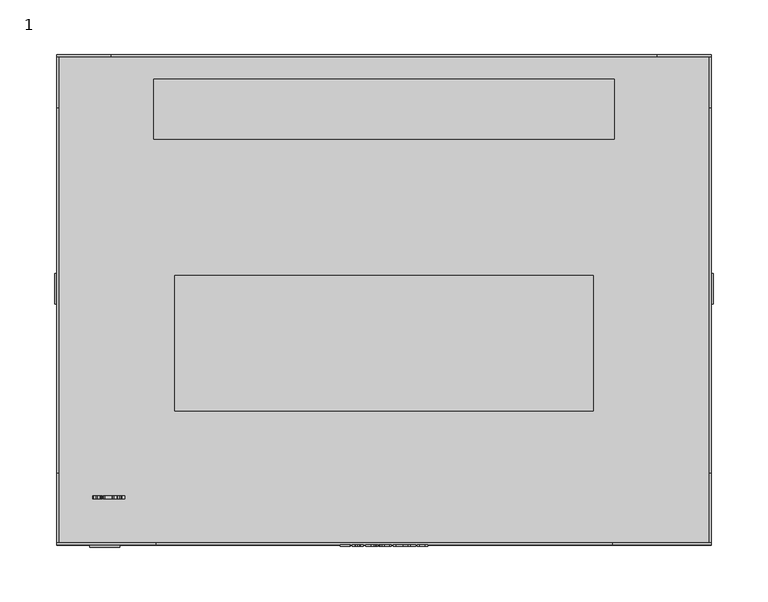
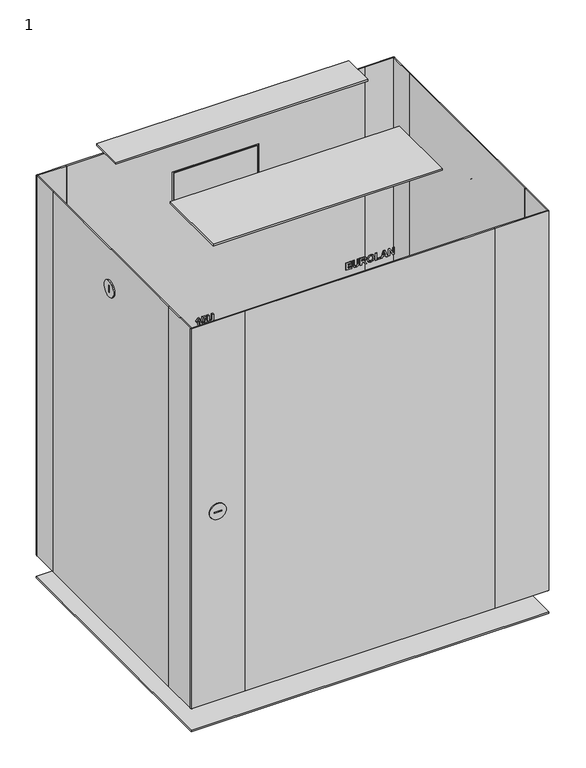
"""IFC4 building model written with IfcOpenShell, lengths in millimetres: proxy geometry, 1 : 15U 450мм стеклянная дверь."""

from ifc_helpers import new_model, si_unit, point, frame, frame_2d, origin, origin_with_axes, place, context, project, spatial, polyline, circle_curve, trimmed, segment, composite_curve, outline, extrude, source, transform, mapped, element, save


def proxy_1_5992bfdd(model_context):
    return source(origin(), model_context, "Body", "SweptSolid", [
        extrude(outline(polyline([(728.0, -40.3245382), (728.0, -30.9964522), (730.1376864, -30.9964522), (730.1376864, -37.9925167), (733.2470483, -37.9925167), (733.2470483, -31.5794576), (735.3847347, -31.5794576), (735.3847347, -37.9925167), (738.1054264, -37.9925167), (738.1054264, -31.1907874), (740.2431128, -31.1907874), (740.2431128, -40.3245382), (728.0, -40.3245382)])), frame((0.0, -226.0, 0.0), z_axis=(0.0, 1.0, 0.0), x_axis=(0.0, 0.0, 1.0)), (0.0, 0.0, 1.0), 1.0),
        extrude(outline(polyline([(740.2431128, -29.053101), (733.7207402, -29.053101), (730.6174512, -28.8071456), (729.2601418, -28.1026808), (728.2095176, -26.6482039), (727.8056649, -23.9487675), (728.1761162, -21.5575346), (729.173602, -20.0954664), (730.7085458, -19.3454543), (733.8209443, -19.1420097), (740.2431128, -19.1420097), (740.2431128, -21.4740312), (733.4960402, -21.4740312), (731.4236383, -21.5924541), (730.3714958, -22.2923642), (729.9433512, -24.0216432), (730.3973059, -25.7979877), (731.5982363, -26.6208755), (733.6387551, -26.7210795), (740.2431128, -26.7210795), (740.2431128, -29.053101)])), frame((0.0, -226.0, 0.0), z_axis=(0.0, 1.0, 0.0), x_axis=(0.0, 0.0, 1.0)), (0.0, 0.0, 1.0), 1.0),
        extrude(outline(polyline([(728.0, -16.8099882), (728.0, -14.4779667), (733.0527132, -13.9435451), (732.9251808, -12.6120459), (732.4560437, -11.8164865), (730.7966039, -10.4242575), (728.0, -8.6509495), (728.0, -5.9272213), (730.3745323, -7.424209), (732.3512849, -8.7238252), (733.3715443, -9.9475291), (734.5071902, -7.6625732), (736.7936644, -6.8988969), (738.7339791, -7.4272455), (739.9121358, -8.8361752), (740.2431128, -11.6601074), (740.2431128, -16.8099882), (728.0, -16.8099882)]), holes=[polyline([(735.1903996, -14.4779667), (738.1054264, -14.4779667), (738.1054264, -12.4495939), (738.0659521, -10.5548264), (737.6150339, -9.5770778), (736.6782779, -9.2309184), (735.817434, -9.4935744), (735.3315962, -10.2223312), (735.1903996, -12.5558709), (735.1903996, -14.4779667)])]), frame((0.0, -226.0, 0.0), z_axis=(0.0, 1.0, 0.0), x_axis=(0.0, 0.0, 1.0)), (0.0, 0.0, 1.0), 1.0),
        extrude(outline(polyline([(734.0456442, -4.9555457), (729.4681411, -3.3735363), (727.8056649, 0.8896905), (729.4757323, 5.1225524), (734.106374, 6.7045618), (738.7628257, 5.1104065), (740.4374479, 0.8593256), (739.9546466, -1.7338337), (738.8539203, -3.2869964), (737.1792981, -4.4059416), (734.0456442, -4.9555457)]), holes=[polyline([(734.1306659, -2.6235242), (737.2612832, -1.6579215), (738.2997616, 0.886654), (737.2734292, 3.4190836), (734.1640672, 4.3725403), (730.9985302, 3.3932735), (729.9433512, 0.886654), (731.0061214, -1.6321114), (734.1306659, -2.6235242)])]), frame((0.0, -226.0, 0.0), z_axis=(0.0, 1.0, 0.0), x_axis=(0.0, 0.0, 1.0)), (0.0, 0.0, 1.0), 1.0),
        extrude(outline(polyline([(728.0, 8.647913), (728.0, 17.1986585), (730.1376864, 17.1986585), (730.1376864, 10.9799345), (740.2431128, 10.9799345), (740.2431128, 8.647913), (728.0, 8.647913)])), frame((0.0, -226.0, 0.0), z_axis=(0.0, 1.0, 0.0), x_axis=(0.0, 0.0, 1.0)), (0.0, 0.0, 1.0), 1.0),
        extrude(outline(polyline([(728.0, 29.2474361), (740.2431128, 24.7352175), (740.2431128, 22.2513717), (728.0, 17.7816638), (728.0, 20.2655096), (730.7206917, 21.2128934), (730.7206917, 25.837462), (728.0, 26.7969917), (728.0, 29.2474361)]), holes=[polyline([(732.8583781, 25.0904864), (732.8583781, 21.959869), (737.3280859, 23.51455), (732.8583781, 25.0904864)])]), frame((0.0, -226.0, 0.0), z_axis=(0.0, 1.0, 0.0), x_axis=(0.0, 0.0, 1.0)), (0.0, 0.0, 1.0), 1.0),
        extrude(outline(polyline([(728.0, 30.4134469), (728.0, 32.7454684), (736.1195644, 32.7454684), (728.0, 37.8042546), (728.0, 40.3245382), (740.2431128, 40.3245382), (740.2431128, 37.9925167), (732.002089, 37.9925167), (740.2431128, 32.8578184), (740.2431128, 30.4134469), (728.0, 30.4134469)])), frame((0.0, -226.0, 0.0), z_axis=(0.0, 1.0, 0.0), x_axis=(0.0, 0.0, 1.0)), (0.0, 0.0, 1.0), 1.0),
        extrude(outline(composite_curve([segment(trimmed(circle_curve(frame_2d((9.997621, 643.4611412)), 14.0), [point((-4.002379, 643.4611412))], [point((23.997621, 643.4611412))], False, "CARTESIAN"), True, "CONTINUOUS"), segment(trimmed(circle_curve(frame_2d((9.997621, 643.4611412)), 14.0), [point((23.997621, 643.4611412))], [point((-4.002379, 643.4611412))], False, "CARTESIAN"), True, "CONTINUOUS")], self_intersect=False), holes=[polyline([(11.0, 649.5), (9.0, 649.5), (9.0, 637.5), (11.0, 637.5), (11.0, 649.5)])]), frame((-302.0, 0.0, 0.0), z_axis=(1.0, 0.0, 0.0), x_axis=(0.0, 1.0, 0.0)), (0.0, 0.0, 1.0), 2.0),
        extrude(outline(composite_curve([segment(trimmed(circle_curve(frame_2d((9.997621, 643.4611412)), 14.0), [point((-4.002379, 643.4611412))], [point((23.997621, 643.4611412))], False, "CARTESIAN"), True, "CONTINUOUS"), segment(trimmed(circle_curve(frame_2d((9.997621, 643.4611412)), 14.0), [point((23.997621, 643.4611412))], [point((-4.002379, 643.4611412))], False, "CARTESIAN"), True, "CONTINUOUS")], self_intersect=False), holes=[polyline([(11.0, 649.5), (9.0, 649.5), (9.0, 637.5), (11.0, 637.5), (11.0, 649.5)])]), frame((300.0, 0.0, 0.0), z_axis=(1.0, 0.0, 0.0), x_axis=(0.0, 1.0, 0.0)), (0.0, 0.0, 1.0), 2.0),
        extrude(outline(composite_curve([segment(trimmed(circle_curve(frame_2d((376.0, -256.0)), 13.7647373), [point((376.0, -242.2352627))], [point((376.0, -269.7647373))], False, "CARTESIAN"), True, "CONTINUOUS"), segment(trimmed(circle_curve(frame_2d((376.0, -256.0)), 13.7647373), [point((376.0, -269.7647373))], [point((376.0, -242.2352627))], False, "CARTESIAN"), True, "CONTINUOUS")], self_intersect=False), holes=[polyline([(377.0, -250.0), (375.0, -250.0), (375.0, -262.0), (377.0, -262.0), (377.0, -250.0)])]), frame((0.0, -227.0, 0.0), z_axis=(0.0, 1.0, 0.0), x_axis=(0.0, 0.0, 1.0)), (0.0, 0.0, 1.0), 2.0),
        extrude(outline(polyline([(300.0, 225.0), (300.0, -225.0), (-300.0, -225.0), (-300.0, 225.0), (300.0, 225.0)])), origin_with_axes(), (0.0, 0.0, 1.0), 2.0),
        extrude(outline(polyline([(211.0, 202.5), (211.0, 147.5), (-211.0, 147.5), (-211.0, 202.5), (211.0, 202.5)])), frame((0.0, 0.0, 748.9795778), z_axis=(0.0, 0.0, 1.0), x_axis=(1.0, 0.0, 0.0)), (0.0, 0.0, 1.0), 3.0204222),
        extrude(outline(polyline([(192.0, 22.0), (192.0, -102.0), (-192.0, -102.0), (-192.0, 22.0), (192.0, 22.0)])), frame((0.0, 0.0, 748.9795778), z_axis=(0.0, 0.0, 1.0), x_axis=(1.0, 0.0, 0.0)), (0.0, 0.0, 1.0), 3.0204222),
        extrude(outline(polyline([(-69.5, 225.0), (69.5, 225.0), (69.5, 223.0), (-69.5, 223.0), (-69.5, 225.0)])), frame((0.0, 0.0, 589.0), z_axis=(0.0, 0.0, 1.0), x_axis=(1.0, 0.0, 0.0)), (0.0, 0.0, 1.0), 49.0),
        extrude(outline(polyline([(714.0, -250.0), (40.0, -250.0), (40.0, 250.0), (714.0, 250.0), (714.0, -250.0)]), holes=[polyline([(641.0, -72.5), (641.0, 72.5), (586.0, 72.5), (586.0, -72.5), (641.0, -72.5)])]), frame((0.0, 223.0, 0.0), z_axis=(0.0, 1.0, 0.0), x_axis=(0.0, 0.0, 1.0)), (0.0, 0.0, 1.0), 2.0),
        extrude(outline(polyline([(-300.0, 225.0), (-250.0, 225.0), (-250.0, 223.0), (-300.0, 223.0), (-300.0, 225.0)])), frame((0.0, 0.0, 40.0), z_axis=(0.0, 0.0, 1.0), x_axis=(1.0, 0.0, 0.0)), (0.0, 0.0, 1.0), 674.0),
        extrude(outline(polyline([(250.0, 225.0), (300.0, 225.0), (300.0, 223.0), (250.0, 223.0), (250.0, 225.0)])), frame((0.0, 0.0, 40.0), z_axis=(0.0, 0.0, 1.0), x_axis=(1.0, 0.0, 0.0)), (0.0, 0.0, 1.0), 674.0),
        extrude(outline(polyline([(-209.0, -223.0), (209.0, -223.0), (209.0, -225.0), (-209.0, -225.0), (-209.0, -223.0)])), frame((0.0, 0.0, 40.0), z_axis=(0.0, 0.0, 1.0), x_axis=(1.0, 0.0, 0.0)), (0.0, 0.0, 1.0), 674.0),
        extrude(outline(polyline([(209.0, -223.0), (300.0, -223.0), (300.0, -225.0), (209.0, -225.0), (209.0, -223.0)])), frame((0.0, 0.0, 40.0), z_axis=(0.0, 0.0, 1.0), x_axis=(1.0, 0.0, 0.0)), (0.0, 0.0, 1.0), 674.0),
        extrude(outline(polyline([(-300.0, -223.0), (-209.0, -223.0), (-209.0, -225.0), (-300.0, -225.0), (-300.0, -223.0)])), frame((0.0, 0.0, 40.0), z_axis=(0.0, 0.0, 1.0), x_axis=(1.0, 0.0, 0.0)), (0.0, 0.0, 1.0), 674.0),
        extrude(outline(polyline([(-298.0, 175.8155315), (-298.0, -158.7095641), (-300.0, -158.7095641), (-300.0, 175.8155315), (-298.0, 175.8155315)])), frame((0.0, 0.0, 40.0), z_axis=(0.0, 0.0, 1.0), x_axis=(1.0, 0.0, 0.0)), (0.0, 0.0, 1.0), 674.0),
        extrude(outline(polyline([(-298.0, -158.7095641), (-298.0, -225.0), (-300.0, -225.0), (-300.0, -158.7095641), (-298.0, -158.7095641)])), frame((0.0, 0.0, 40.0), z_axis=(0.0, 0.0, 1.0), x_axis=(1.0, 0.0, 0.0)), (0.0, 0.0, 1.0), 674.0),
        extrude(outline(polyline([(-298.0, 225.0), (-298.0, 175.8155315), (-300.0, 175.8155315), (-300.0, 225.0), (-298.0, 225.0)])), frame((0.0, 0.0, 40.0), z_axis=(0.0, 0.0, 1.0), x_axis=(1.0, 0.0, 0.0)), (0.0, 0.0, 1.0), 674.0),
        extrude(outline(polyline([(300.0, 175.8155315), (300.0, -158.7095641), (298.0, -158.7095641), (298.0, 175.8155315), (300.0, 175.8155315)])), frame((0.0, 0.0, 40.0), z_axis=(0.0, 0.0, 1.0), x_axis=(1.0, 0.0, 0.0)), (0.0, 0.0, 1.0), 674.0),
        extrude(outline(polyline([(300.0, 225.0), (300.0, 175.8155315), (298.0, 175.8155315), (298.0, 225.0), (300.0, 225.0)])), frame((0.0, 0.0, 40.0), z_axis=(0.0, 0.0, 1.0), x_axis=(1.0, 0.0, 0.0)), (0.0, 0.0, 1.0), 674.0),
        extrude(outline(polyline([(300.0, -158.7095641), (300.0, -225.0), (298.0, -225.0), (298.0, -158.7095641), (300.0, -158.7095641)])), frame((0.0, 0.0, 40.0), z_axis=(0.0, 0.0, 1.0), x_axis=(1.0, 0.0, 0.0)), (0.0, 0.0, 1.0), 674.0),
        extrude(outline(polyline([(680.748317, -260.6030776), (692.9914298, -260.6030776), (692.9914298, -262.4614073), (691.0253049, -263.9037383), (689.8820678, -265.850126), (687.5500463, -265.850126), (689.4994705, -262.9350991), (680.748317, -262.9350991), (680.748317, -260.6030776)])), frame((0.0, -182.6777479, 0.0), z_axis=(0.0, 1.0, 0.0), x_axis=(0.0, 0.0, 1.0)), (0.0, 0.0, 1.0), 3.0),
        extrude(outline(polyline([(684.1947289, -257.1050454), (681.5408399, -255.8676772), (680.5539818, -253.194051), (682.1268817, -249.984485), (684.7473694, -249.1373053), (687.6122943, -250.1545282), (688.716057, -252.6323011), (688.2393287, -254.1353618), (690.4650731, -253.6647064), (690.4650731, -249.7203107), (692.7970946, -249.7203107), (692.7970946, -255.5503644), (685.9073072, -256.9107103), (685.606695, -254.8884104), (686.5783707, -253.1819051), (686.1077153, -251.9445369), (684.6957492, -251.4693268), (683.1911702, -251.9809748), (682.6916682, -253.2304889), (683.1623236, -254.3722077), (684.4406843, -254.967359), (684.1947289, -257.1050454)])), frame((0.0, -182.6777479, 0.0), z_axis=(0.0, 1.0, 0.0), x_axis=(0.0, 0.0, 1.0)), (0.0, 0.0, 1.0), 3.0),
        extrude(outline(polyline([(692.9914298, -247.3882892), (686.4690572, -247.3882892), (683.3657682, -247.1423338), (682.0084588, -246.437869), (680.9578345, -244.9833921), (680.5539818, -242.2839557), (680.9244332, -239.8927228), (681.9219189, -238.4306546), (683.4568627, -237.6806425), (686.5692612, -237.4771979), (692.9914298, -237.4771979), (692.9914298, -239.8092194), (686.2443572, -239.8092194), (684.1719553, -239.9276424), (683.1198128, -240.6275524), (682.6916682, -242.3568314), (683.1456229, -244.1331759), (684.3465532, -244.9560637), (686.387072, -245.0562677), (692.9914298, -245.0562677), (692.9914298, -247.3882892)])), frame((0.0, -182.6777479, 0.0), z_axis=(0.0, 1.0, 0.0), x_axis=(0.0, 0.0, 1.0)), (0.0, 0.0, 1.0), 3.0),
        extrude(outline(polyline([(636.0351924, -260.6030776), (648.2783052, -260.6030776), (648.2783052, -262.4614073), (646.3121803, -263.9037383), (645.1689432, -265.850126), (642.8369217, -265.850126), (644.7863459, -262.9350991), (636.0351924, -262.9350991), (636.0351924, -260.6030776)])), frame((0.0, -182.6777479, 0.0), z_axis=(0.0, 1.0, 0.0), x_axis=(0.0, 0.0, 1.0)), (0.0, 0.0, 1.0), 3.0),
        extrude(outline(polyline([(636.0351924, -252.8296727), (636.0351924, -250.4976512), (638.561549, -250.4976512), (638.561549, -248.9429702), (640.5049002, -248.9429702), (640.5049002, -250.4976512), (648.08397, -250.4976512), (648.08397, -252.5199511), (640.4957907, -257.4937157), (638.561549, -257.4937157), (638.561549, -252.8296727), (636.0351924, -252.8296727)]), holes=[polyline([(640.5049002, -252.8296727), (640.5049002, -255.4349779), (644.4826973, -252.8296727), (640.5049002, -252.8296727)])]), frame((0.0, -182.6777479, 0.0), z_axis=(0.0, 1.0, 0.0), x_axis=(0.0, 0.0, 1.0)), (0.0, 0.0, 1.0), 3.0),
        extrude(outline(polyline([(648.2783052, -247.3882892), (641.7559326, -247.3882892), (638.6526436, -247.1423338), (637.2953342, -246.437869), (636.2447099, -244.9833921), (635.8408572, -242.2839557), (636.2113086, -239.8927228), (637.2087943, -238.4306546), (638.7437381, -237.6806425), (641.8561366, -237.4771979), (648.2783052, -237.4771979), (648.2783052, -239.8092194), (641.5312326, -239.8092194), (639.4588307, -239.9276424), (638.4066882, -240.6275524), (637.9785436, -242.3568314), (638.4324983, -244.1331759), (639.6334286, -244.9560637), (641.6739474, -245.0562677), (648.2783052, -245.0562677), (648.2783052, -247.3882892)])), frame((0.0, -182.6777479, 0.0), z_axis=(0.0, 1.0, 0.0), x_axis=(0.0, 0.0, 1.0)), (0.0, 0.0, 1.0), 3.0),
        extrude(outline(polyline([(591.485825, -260.6030776), (603.7289378, -260.6030776), (603.7289378, -262.4614073), (601.762813, -263.9037383), (600.6195759, -265.850126), (598.2875544, -265.850126), (600.2369786, -262.9350991), (591.485825, -262.9350991), (591.485825, -260.6030776)])), frame((0.0, -182.6777479, 0.0), z_axis=(0.0, 1.0, 0.0), x_axis=(0.0, 0.0, 1.0)), (0.0, 0.0, 1.0), 3.0),
        extrude(outline(polyline([(594.9079451, -257.1050454), (592.2920122, -255.8919691), (591.2914899, -253.2578173), (592.4165081, -250.4566586), (595.1356816, -249.3316405), (597.0137484, -249.9662661), (598.0142706, -251.6606255), (600.5861745, -249.9146458), (602.6266933, -250.7284242), (603.7289378, -253.3458754), (603.3311581, -255.0690813), (602.2395413, -256.2684934), (600.3857664, -256.9107103), (600.0365705, -254.5786888), (601.19499, -254.1611719), (601.5912515, -253.3306929), (601.2496468, -252.5427247), (600.3341462, -252.2466673), (599.253157, -252.6429288), (598.8705597, -253.7922388), (596.9484639, -253.9956834), (597.1215436, -253.0695551), (596.6387423, -252.0720693), (595.3300167, -251.6636619), (593.9438607, -252.1100254), (593.4291763, -253.21227), (593.8785763, -254.2477118), (595.1781924, -254.7730239), (594.9079451, -257.1050454)])), frame((0.0, -182.6777479, 0.0), z_axis=(0.0, 1.0, 0.0), x_axis=(0.0, 0.0, 1.0)), (0.0, 0.0, 1.0), 3.0),
        extrude(outline(polyline([(603.7289378, -247.3882892), (597.2065653, -247.3882892), (594.1032762, -247.1423338), (592.7459669, -246.437869), (591.6953426, -244.9833921), (591.2914899, -242.2839557), (591.6619413, -239.8927228), (592.659427, -238.4306546), (594.1943708, -237.6806425), (597.3067693, -237.4771979), (603.7289378, -237.4771979), (603.7289378, -239.8092194), (596.9818653, -239.8092194), (594.9094634, -239.9276424), (593.8573209, -240.6275524), (593.4291763, -242.3568314), (593.883131, -244.1331759), (595.0840613, -244.9560637), (597.1245801, -245.0562677), (603.7289378, -245.0562677), (603.7289378, -247.3882892)])), frame((0.0, -182.6777479, 0.0), z_axis=(0.0, 1.0, 0.0), x_axis=(0.0, 0.0, 1.0)), (0.0, 0.0, 1.0), 3.0),
        extrude(outline(polyline([(547.6333267, -260.6030776), (559.8764395, -260.6030776), (559.8764395, -262.4614073), (557.9103146, -263.9037383), (556.7670775, -265.850126), (554.435056, -265.850126), (556.3844802, -262.9350991), (547.6333267, -262.9350991), (547.6333267, -260.6030776)])), frame((0.0, -182.6777479, 0.0), z_axis=(0.0, 1.0, 0.0), x_axis=(0.0, 0.0, 1.0)), (0.0, 0.0, 1.0), 3.0),
        extrude(outline(polyline([(549.9653481, -249.3316405), (550.6030103, -253.2395983), (551.9299548, -251.9080991), (553.4603439, -250.4581769), (554.9937695, -249.6018877), (556.5363045, -249.3316405), (558.918428, -250.3184985), (559.8764395, -253.0331173), (559.0216686, -255.6596779), (556.202291, -256.9107103), (555.989737, -254.5786888), (557.3333822, -254.1292888), (557.7387531, -253.0847375), (557.3273092, -252.0417045), (556.1476343, -251.6636619), (554.7447776, -252.1130619), (552.7892804, -253.9167348), (549.9213191, -256.3611063), (547.6333267, -257.1050454), (547.6333267, -249.3316405), (549.9653481, -249.3316405)])), frame((0.0, -182.6777479, 0.0), z_axis=(0.0, 1.0, 0.0), x_axis=(0.0, 0.0, 1.0)), (0.0, 0.0, 1.0), 3.0),
        extrude(outline(polyline([(559.8764395, -247.3882892), (553.3540669, -247.3882892), (550.2507779, -247.1423338), (548.8934685, -246.437869), (547.8428442, -244.9833921), (547.4389915, -242.2839557), (547.8094429, -239.8927228), (548.8069286, -238.4306546), (550.3418725, -237.6806425), (553.4542709, -237.4771979), (559.8764395, -237.4771979), (559.8764395, -239.8092194), (553.1293669, -239.8092194), (551.056965, -239.9276424), (550.0048225, -240.6275524), (549.5766779, -242.3568314), (550.0306326, -244.1331759), (551.2315629, -244.9560637), (553.2720817, -245.0562677), (559.8764395, -245.0562677), (559.8764395, -247.3882892)])), frame((0.0, -182.6777479, 0.0), z_axis=(0.0, 1.0, 0.0), x_axis=(0.0, 0.0, 1.0)), (0.0, 0.0, 1.0), 3.0),
        extrude(outline(polyline([(501.1786301, -260.6030776), (513.4217429, -260.6030776), (513.4217429, -262.4614073), (511.455618, -263.9037383), (510.3123809, -265.850126), (507.9803594, -265.850126), (509.9297836, -262.9350991), (501.1786301, -262.9350991), (501.1786301, -260.6030776)])), frame((0.0, -182.6777479, 0.0), z_axis=(0.0, 1.0, 0.0), x_axis=(0.0, 0.0, 1.0)), (0.0, 0.0, 1.0), 3.0),
        extrude(outline(polyline([(501.1786301, -251.2749917), (513.4217429, -251.2749917), (513.4217429, -253.1333213), (511.455618, -254.5756523), (510.3123809, -256.52204), (507.9803594, -256.52204), (509.9297836, -253.6070132), (501.1786301, -253.6070132), (501.1786301, -251.2749917)])), frame((0.0, -182.6777479, 0.0), z_axis=(0.0, 1.0, 0.0), x_axis=(0.0, 0.0, 1.0)), (0.0, 0.0, 1.0), 3.0),
        extrude(outline(polyline([(513.4217429, -247.3882892), (506.8993703, -247.3882892), (503.7960813, -247.1423338), (502.4387719, -246.437869), (501.3881476, -244.9833921), (500.9842949, -242.2839557), (501.3547463, -239.8927228), (502.352232, -238.4306546), (503.8871758, -237.6806425), (506.9995743, -237.4771979), (513.4217429, -237.4771979), (513.4217429, -239.8092194), (506.6746703, -239.8092194), (504.6022684, -239.9276424), (503.5501259, -240.6275524), (503.1219813, -242.3568314), (503.575936, -244.1331759), (504.7768663, -244.9560637), (506.8173851, -245.0562677), (513.4217429, -245.0562677), (513.4217429, -247.3882892)])), frame((0.0, -182.6777479, 0.0), z_axis=(0.0, 1.0, 0.0), x_axis=(0.0, 0.0, 1.0)), (0.0, 0.0, 1.0), 3.0),
        extrude(outline(polyline([(457.3261317, -260.6030776), (469.5692445, -260.6030776), (469.5692445, -262.4614073), (467.6031196, -263.9037383), (466.4598825, -265.850126), (464.127861, -265.850126), (466.0772852, -262.9350991), (457.3261317, -262.9350991), (457.3261317, -260.6030776)])), frame((0.0, -182.6777479, 0.0), z_axis=(0.0, 1.0, 0.0), x_axis=(0.0, 0.0, 1.0)), (0.0, 0.0, 1.0), 3.0),
        extrude(outline(polyline([(469.5692445, -253.2183429), (468.3242851, -255.9299252), (463.3717759, -257.1050454), (458.4982154, -256.034684), (457.1317966, -253.2183429), (458.3767559, -250.5067607), (463.347484, -249.3316405), (468.3060662, -250.5006877), (469.5692445, -253.2183429)]), holes=[polyline([(467.4315581, -253.2183429), (467.174975, -252.4455572), (466.1531974, -251.8853254), (463.347484, -251.6636619), (460.4476396, -251.9126538), (459.526066, -252.4410024), (459.2694829, -253.2183429), (459.5230295, -253.9911287), (460.5402524, -254.5513604), (463.347484, -254.7730239), (466.2534014, -254.524032), (467.174975, -253.9956834), (467.4315581, -253.2183429)])]), frame((0.0, -182.6777479, 0.0), z_axis=(0.0, 1.0, 0.0), x_axis=(0.0, 0.0, 1.0)), (0.0, 0.0, 1.0), 3.0),
        extrude(outline(polyline([(469.5692445, -247.3882892), (463.0468719, -247.3882892), (459.9435829, -247.1423338), (458.5862735, -246.437869), (457.5356492, -244.9833921), (457.1317966, -242.2839557), (457.5022479, -239.8927228), (458.4997336, -238.4306546), (460.0346775, -237.6806425), (463.1470759, -237.4771979), (469.5692445, -237.4771979), (469.5692445, -239.8092194), (462.8221719, -239.8092194), (460.74977, -239.9276424), (459.6976275, -240.6275524), (459.2694829, -242.3568314), (459.7234376, -244.1331759), (460.924368, -244.9560637), (462.9648868, -245.0562677), (469.5692445, -245.0562677), (469.5692445, -247.3882892)])), frame((0.0, -182.6777479, 0.0), z_axis=(0.0, 1.0, 0.0), x_axis=(0.0, 0.0, 1.0)), (0.0, 0.0, 1.0), 3.0),
        extrude(outline(polyline([(416.2414631, -266.2387962), (413.8062011, -265.1547706), (412.9924228, -262.9381356), (414.4696734, -259.8469925), (419.2870589, -258.6597264), (423.9981674, -259.7953723), (425.4298707, -262.7012897), (424.3169985, -265.3809888), (421.3852709, -266.4331314), (418.550711, -265.4083172), (417.4621306, -262.971537), (418.476317, -260.8065222), (415.7753625, -261.4290019), (415.1301091, -262.6071586), (415.4641226, -263.4922944), (416.490455, -263.9067747), (416.2414631, -266.2387962)]), holes=[polyline([(421.3306142, -260.9917479), (420.0385892, -261.4365931), (419.599817, -262.5312464), (420.0568082, -263.6517099), (421.4885115, -264.1011099), (422.8701127, -263.6881477), (423.2921843, -262.6496694), (422.7774999, -261.4927681), (421.3306142, -260.9917479)])]), frame((0.0, -182.6777479, 0.0), z_axis=(0.0, 1.0, 0.0), x_axis=(0.0, 0.0, 1.0)), (0.0, 0.0, 1.0), 3.0),
        extrude(outline(polyline([(425.4298707, -256.7163752), (418.9074981, -256.7163752), (415.8042091, -256.4704198), (414.4468997, -255.7659549), (413.3962754, -254.311478), (412.9924228, -251.6120417), (413.3628741, -249.2208087), (414.3603599, -247.7587405), (415.8953037, -247.0087284), (419.0077021, -246.8052838), (425.4298707, -246.8052838), (425.4298707, -249.1373053), (418.6827981, -249.1373053), (416.6103962, -249.2557283), (415.5582537, -249.9556384), (415.1301091, -251.6849173), (415.5840638, -253.4612618), (416.7849942, -254.2841496), (418.825513, -254.3843537), (425.4298707, -254.3843537), (425.4298707, -256.7163752)])), frame((0.0, -182.6777479, 0.0), z_axis=(0.0, 1.0, 0.0), x_axis=(0.0, 0.0, 1.0)), (0.0, 0.0, 1.0), 3.0),
        extrude(outline(polyline([(376.4962498, -264.3865396), (375.2254803, -265.9397023), (373.4172527, -266.4331314), (370.6024299, -265.1669166), (369.7339948, -262.4826627), (370.784619, -259.7042777), (373.5174567, -258.6597264), (375.3120201, -259.1865568), (376.4962498, -260.7245371), (377.508918, -259.3444541), (379.0226064, -258.8540615), (381.280234, -259.8227007), (382.1714427, -262.5464289), (381.280234, -265.2777483), (379.0226064, -266.2387962), (377.5499105, -265.7985057), (376.4962498, -264.3865396)]), holes=[polyline([(378.8798915, -263.9067747), (380.000355, -263.5332869), (380.4224266, -262.5312464), (380.0033915, -261.5550161), (378.889001, -261.186083), (377.7320997, -261.5595708), (377.3130646, -262.5555383), (377.727545, -263.5378417), (378.8798915, -263.9067747)]), polyline([(373.6146243, -264.1011099), (374.94916, -263.7169943), (375.5640485, -262.5494654), (375.0220357, -261.4320384), (373.5872959, -260.9917479), (372.0250237, -261.4244472), (371.4830109, -262.5191005), (372.0462791, -263.6486734), (373.6146243, -264.1011099)])]), frame((0.0, -182.6777479, 0.0), z_axis=(0.0, 1.0, 0.0), x_axis=(0.0, 0.0, 1.0)), (0.0, 0.0, 1.0), 3.0),
        extrude(outline(polyline([(382.1714427, -256.7163752), (375.6490701, -256.7163752), (372.5457811, -256.4704198), (371.1884717, -255.7659549), (370.1378475, -254.311478), (369.7339948, -251.6120417), (370.1044461, -249.2208087), (371.1019319, -247.7587405), (372.6368757, -247.0087284), (375.7492742, -246.8052838), (382.1714427, -246.8052838), (382.1714427, -249.1373053), (375.4243701, -249.1373053), (373.3519682, -249.2557283), (372.2998257, -249.9556384), (371.8716811, -251.6849173), (372.3256358, -253.4612618), (373.5265662, -254.2841496), (375.567085, -254.3843537), (382.1714427, -254.3843537), (382.1714427, -256.7163752)])), frame((0.0, -182.6777479, 0.0), z_axis=(0.0, 1.0, 0.0), x_axis=(0.0, 0.0, 1.0)), (0.0, 0.0, 1.0), 3.0),
        extrude(outline(polyline([(334.6450861, -266.4331314), (334.6450861, -261.3257614), (330.0129262, -264.008497), (324.9283299, -265.0727855), (324.9283299, -262.740764), (328.5812229, -262.2154519), (332.440597, -260.6622891), (335.2280915, -258.6597264), (336.9771076, -258.6597264), (336.9771076, -266.4331314), (334.6450861, -266.4331314)])), frame((0.0, -182.6777479, 0.0), z_axis=(0.0, 1.0, 0.0), x_axis=(0.0, 0.0, 1.0)), (0.0, 0.0, 1.0), 3.0),
        extrude(outline(polyline([(337.1714427, -256.7163752), (330.6490701, -256.7163752), (327.5457811, -256.4704198), (326.1884717, -255.7659549), (325.1378475, -254.311478), (324.7339948, -251.6120417), (325.1044461, -249.2208087), (326.1019319, -247.7587405), (327.6368757, -247.0087284), (330.7492742, -246.8052838), (337.1714427, -246.8052838), (337.1714427, -249.1373053), (330.4243701, -249.1373053), (328.3519682, -249.2557283), (327.2998257, -249.9556384), (326.8716811, -251.6849173), (327.3256358, -253.4612618), (328.5265662, -254.2841496), (330.567085, -254.3843537), (337.1714427, -254.3843537), (337.1714427, -256.7163752)])), frame((0.0, -182.6777479, 0.0), z_axis=(0.0, 1.0, 0.0), x_axis=(0.0, 0.0, 1.0)), (0.0, 0.0, 1.0), 3.0),
        extrude(outline(polyline([(287.6111434, -258.8540615), (290.0281866, -259.9654155), (290.8601838, -262.1668681), (289.381415, -265.2473834), (284.5534017, -266.4331314), (279.8559574, -265.2974855), (278.4227359, -262.4006775), (279.5325716, -259.7073142), (282.4764451, -258.6597264), (285.2973409, -259.6845405), (286.390476, -262.1486492), (285.3671801, -264.2802626), (288.0772441, -263.6638558), (288.7224974, -262.4674802), (288.3900022, -261.5990451), (287.3621516, -261.186083), (287.6111434, -258.8540615)]), holes=[polyline([(282.5280654, -264.1011099), (283.8155356, -263.6532281), (284.2527896, -262.5585748), (283.7957984, -261.4396296), (282.3549856, -260.9917479), (280.9794573, -261.4077465), (280.5604222, -262.4462248), (281.0720702, -263.5970531), (282.5280654, -264.1011099)])]), frame((0.0, -182.6777479, 0.0), z_axis=(0.0, 1.0, 0.0), x_axis=(0.0, 0.0, 1.0)), (0.0, 0.0, 1.0), 3.0),
        extrude(outline(polyline([(290.8601838, -256.7163752), (284.3378112, -256.7163752), (281.2345222, -256.4704198), (279.8772128, -255.7659549), (278.8265886, -254.311478), (278.4227359, -251.6120417), (278.7931872, -249.2208087), (279.790673, -247.7587405), (281.3256168, -247.0087284), (284.4380153, -246.8052838), (290.8601838, -246.8052838), (290.8601838, -249.1373053), (284.1131112, -249.1373053), (282.0407093, -249.2557283), (280.9885668, -249.9556384), (280.5604222, -251.6849173), (281.0143769, -253.4612618), (282.2153073, -254.2841496), (284.2558261, -254.3843537), (290.8601838, -254.3843537), (290.8601838, -256.7163752)])), frame((0.0, -182.6777479, 0.0), z_axis=(0.0, 1.0, 0.0), x_axis=(0.0, 0.0, 1.0)), (0.0, 0.0, 1.0), 3.0),
        extrude(outline(polyline([(237.3503584, -266.4331314), (234.6964693, -265.1957632), (233.7096113, -262.522137), (235.2825112, -259.312571), (237.9029989, -258.4653913), (240.7679237, -259.4826142), (241.8716865, -261.960387), (241.3949581, -263.4634477), (243.6207026, -262.9927924), (243.6207026, -259.0483966), (245.9527241, -259.0483966), (245.9527241, -264.8784504), (239.0629366, -266.2387962), (238.7623245, -264.2164963), (239.7340001, -262.509991), (239.2633447, -261.2726229), (237.8513786, -260.7974128), (236.3467996, -261.3090607), (235.8472976, -262.5585748), (236.317953, -263.7002937), (237.5963138, -264.295445), (237.3503584, -266.4331314)])), frame((0.0, -182.6777479, 0.0), z_axis=(0.0, 1.0, 0.0), x_axis=(0.0, 0.0, 1.0)), (0.0, 0.0, 1.0), 3.0),
        extrude(outline(polyline([(246.1470592, -256.7163752), (239.6246866, -256.7163752), (236.5213976, -256.4704198), (235.1640882, -255.7659549), (234.113464, -254.311478), (233.7096113, -251.6120417), (234.0800626, -249.2208087), (235.0775484, -247.7587405), (236.6124922, -247.0087284), (239.7248907, -246.8052838), (246.1470592, -246.8052838), (246.1470592, -249.1373053), (239.3999866, -249.1373053), (237.3275847, -249.2557283), (236.2754422, -249.9556384), (235.8472976, -251.6849173), (236.3012523, -253.4612618), (237.5021827, -254.2841496), (239.5427015, -254.3843537), (246.1470592, -254.3843537), (246.1470592, -256.7163752)])), frame((0.0, -182.6777479, 0.0), z_axis=(0.0, 1.0, 0.0), x_axis=(0.0, 0.0, 1.0)), (0.0, 0.0, 1.0), 3.0),
        extrude(outline(polyline([(189.9283299, -262.1577586), (189.9283299, -259.8257371), (192.4546865, -259.8257371), (192.4546865, -258.2710562), (194.3980377, -258.2710562), (194.3980377, -259.8257371), (201.9771076, -259.8257371), (201.9771076, -261.848037), (194.3889283, -266.8218016), (192.4546865, -266.8218016), (192.4546865, -262.1577586), (189.9283299, -262.1577586)]), holes=[polyline([(194.3980377, -262.1577586), (194.3980377, -264.7630639), (198.3758348, -262.1577586), (194.3980377, -262.1577586)])]), frame((0.0, -182.6777479, 0.0), z_axis=(0.0, 1.0, 0.0), x_axis=(0.0, 0.0, 1.0)), (0.0, 0.0, 1.0), 3.0),
        extrude(outline(polyline([(202.1714427, -256.7163752), (195.6490701, -256.7163752), (192.5457811, -256.4704198), (191.1884717, -255.7659549), (190.1378475, -254.311478), (189.7339948, -251.6120417), (190.1044461, -249.2208087), (191.1019319, -247.7587405), (192.6368757, -247.0087284), (195.7492742, -246.8052838), (202.1714427, -246.8052838), (202.1714427, -249.1373053), (195.4243701, -249.1373053), (193.3519682, -249.2557283), (192.2998257, -249.9556384), (191.8716811, -251.6849173), (192.3256358, -253.4612618), (193.5265662, -254.2841496), (195.567085, -254.3843537), (202.1714427, -254.3843537), (202.1714427, -256.7163752)])), frame((0.0, -182.6777479, 0.0), z_axis=(0.0, 1.0, 0.0), x_axis=(0.0, 0.0, 1.0)), (0.0, 0.0, 1.0), 3.0),
        extrude(outline(polyline([(148.35045, -266.4331314), (145.734517, -265.2200551), (144.7339948, -262.5859032), (145.859013, -259.7847446), (148.5781864, -258.6597264), (150.4562532, -259.294352), (151.4567755, -260.9887114), (154.0286794, -259.2427318), (156.0691982, -260.0565101), (157.1714427, -262.6739613), (156.773663, -264.3971673), (155.6820462, -265.5965794), (153.8282713, -266.2387962), (153.4790753, -263.9067747), (154.6374949, -263.4892579), (155.0337563, -262.6587789), (154.6921516, -261.8708107), (153.776651, -261.5747533), (152.6956619, -261.9710147), (152.3130646, -263.1203248), (150.3909688, -263.3237694), (150.5640485, -262.397641), (150.0812472, -261.4001553), (148.7725216, -260.9917479), (147.3863656, -261.4381114), (146.8716811, -262.5403559), (147.3210811, -263.5757977), (148.6206973, -264.1011099), (148.35045, -266.4331314)])), frame((0.0, -182.6777479, 0.0), z_axis=(0.0, 1.0, 0.0), x_axis=(0.0, 0.0, 1.0)), (0.0, 0.0, 1.0), 3.0),
        extrude(outline(polyline([(157.1714427, -256.7163752), (150.6490701, -256.7163752), (147.5457811, -256.4704198), (146.1884717, -255.7659549), (145.1378475, -254.311478), (144.7339948, -251.6120417), (145.1044461, -249.2208087), (146.1019319, -247.7587405), (147.6368757, -247.0087284), (150.7492742, -246.8052838), (157.1714427, -246.8052838), (157.1714427, -249.1373053), (150.4243701, -249.1373053), (148.3519682, -249.2557283), (147.2998257, -249.9556384), (146.8716811, -251.6849173), (147.3256358, -253.4612618), (148.5265662, -254.2841496), (150.567085, -254.3843537), (157.1714427, -254.3843537), (157.1714427, -256.7163752)])), frame((0.0, -182.6777479, 0.0), z_axis=(0.0, 1.0, 0.0), x_axis=(0.0, 0.0, 1.0)), (0.0, 0.0, 1.0), 3.0),
        extrude(outline(polyline([(103.3014708, -258.8246798), (103.9391329, -262.7326376), (105.2660774, -261.4011384), (106.7964665, -259.9512162), (108.3298921, -259.094927), (109.8724272, -258.8246798), (112.2545507, -259.8115378), (113.2125621, -262.5261566), (112.3577912, -265.1527172), (109.5384137, -266.4037496), (109.3258596, -264.0717281), (110.6695048, -263.6223281), (111.0748758, -262.5777768), (110.6634319, -261.5347438), (109.4837569, -261.1567012), (108.0809003, -261.6061012), (106.1254031, -263.4097741), (103.2574418, -265.8541456), (100.9694493, -266.5980847), (100.9694493, -258.8246798), (103.3014708, -258.8246798)])), frame((0.0, -182.6777479, 0.0), z_axis=(0.0, 1.0, 0.0), x_axis=(0.0, 0.0, 1.0)), (0.0, 0.0, 1.0), 3.0),
        extrude(outline(polyline([(113.2125621, -256.8813285), (106.6901895, -256.8813285), (103.5869005, -256.6353731), (102.2295911, -255.9309083), (101.1789669, -254.4764314), (100.7751142, -251.776995), (101.1455655, -249.3857621), (102.1430513, -247.9236939), (103.6779951, -247.1736818), (106.7903936, -246.9702372), (113.2125621, -246.9702372), (113.2125621, -249.3022587), (106.4654895, -249.3022587), (104.3930876, -249.4206817), (103.3409451, -250.1205917), (102.9128006, -251.8498707), (103.3667553, -253.6262152), (104.5676856, -254.449103), (106.6082044, -254.549307), (113.2125621, -254.549307), (113.2125621, -256.8813285)])), frame((0.0, -182.6777479, 0.0), z_axis=(0.0, 1.0, 0.0), x_axis=(0.0, 0.0, 1.0)), (0.0, 0.0, 1.0), 3.0),
        extrude(outline(polyline([(59.9283299, -260.6030776), (72.1714427, -260.6030776), (72.1714427, -262.4614073), (70.2053178, -263.9037383), (69.0620807, -265.850126), (66.7300592, -265.850126), (68.6794834, -262.9350991), (59.9283299, -262.9350991), (59.9283299, -260.6030776)])), frame((0.0, -182.6777479, 0.0), z_axis=(0.0, 1.0, 0.0), x_axis=(0.0, 0.0, 1.0)), (0.0, 0.0, 1.0), 3.0),
        extrude(outline(polyline([(72.1714427, -256.7163752), (65.6490701, -256.7163752), (62.5457811, -256.4704198), (61.1884717, -255.7659549), (60.1378475, -254.311478), (59.7339948, -251.6120417), (60.1044461, -249.2208087), (61.1019319, -247.7587405), (62.6368757, -247.0087284), (65.7492742, -246.8052838), (72.1714427, -246.8052838), (72.1714427, -249.1373053), (65.4243701, -249.1373053), (63.3519682, -249.2557283), (62.2998257, -249.9556384), (61.8716811, -251.6849173), (62.3256358, -253.4612618), (63.5265662, -254.2841496), (65.567085, -254.3843537), (72.1714427, -254.3843537), (72.1714427, -256.7163752)])), frame((0.0, -182.6777479, 0.0), z_axis=(0.0, 1.0, 0.0), x_axis=(0.0, 0.0, 1.0)), (0.0, 0.0, 1.0), 3.0),
    ])


if __name__ == "__main__":
    model = new_model("IFC4")
    model_context = context("Model", 3, world=origin())
    ifc_project = project(units=[si_unit("LENGTHUNIT", "METRE", prefix="MILLI")], contexts=[model_context])
    site = spatial("IfcSite", under=ifc_project)
    building = spatial("IfcBuilding", under=site)
    placement = place(None, origin())
    proxy_1_shape = proxy_1_5992bfdd(model_context)
    element("IfcBuildingElementProxy", 1, Name="1 : 15U 450мм стеклянная дверь", ObjectType="1 : 15U 450мм стеклянная дверь", at=placement, inside=building, context=model_context, shape_type="MappedRepresentation", body=[
        mapped(proxy_1_shape, transform((0.0, 0.0, 0.0), x_axis=(1.0, 0.0, 0.0), y_axis=(0.0, 1.0, 0.0), z_axis=(0.0, 0.0, 1.0))),
    ])
    save(model, "model.ifc")
